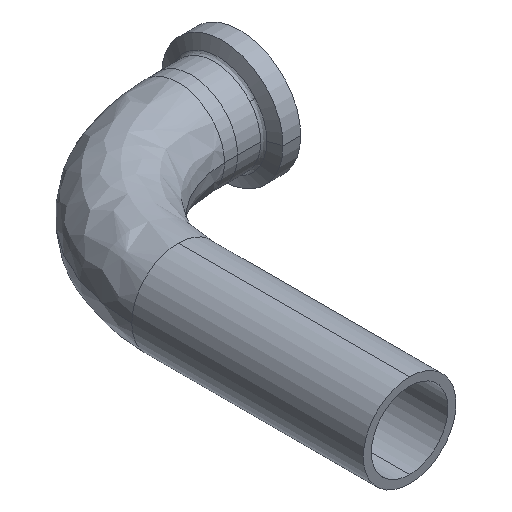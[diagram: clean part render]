
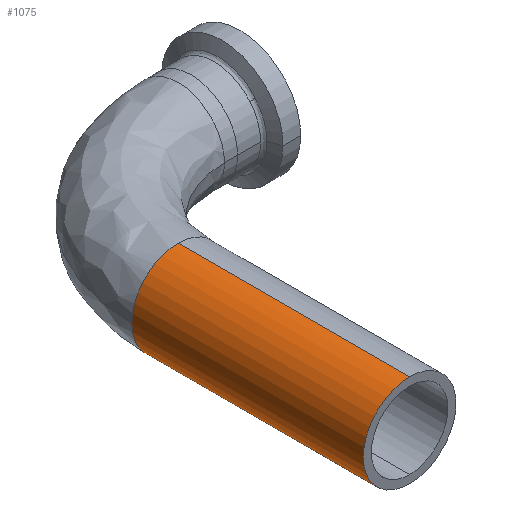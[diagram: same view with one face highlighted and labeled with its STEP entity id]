
A CAD part, isometric view. The second image highlights one B-rep face of the part: STEP entity #1075.
In plain terms, the highlighted cylindrical face has radius 9.525 mm (diameter 19.05 mm), a partial arc.
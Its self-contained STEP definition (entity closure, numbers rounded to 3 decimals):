
#17 = DIRECTION ( 'NONE',  ( 0., 0., -1. ) ) ;
#26 = DIRECTION ( 'NONE',  ( 0., -1., 0. ) ) ;
#32 = CARTESIAN_POINT ( 'NONE',  ( 0., 47.6, 0. ) ) ;
#35 = VERTEX_POINT ( 'NONE', #798 ) ;
#154 = ORIENTED_EDGE ( 'NONE', *, *, #1178, .T. ) ;
#183 = CYLINDRICAL_SURFACE ( 'NONE', #838, 9.525 ) ;
#186 = EDGE_CURVE ( 'NONE', #636, #913, #437, .T. ) ;
#206 = LINE ( 'NONE', #671, #733 ) ;
#215 = VERTEX_POINT ( 'NONE', #815 ) ;
#223 = FACE_OUTER_BOUND ( 'NONE', #1250, .T. ) ;
#228 = VERTEX_POINT ( 'NONE', #822 ) ;
#290 = DIRECTION ( 'NONE',  ( 0., 0., -1. ) ) ;
#294 = DIRECTION ( 'NONE',  ( 0., 1., 0. ) ) ;
#303 = CARTESIAN_POINT ( 'NONE',  ( 0., 0., 0. ) ) ;
#320 = DIRECTION ( 'NONE',  ( 0., -1., 0. ) ) ;
#325 = DIRECTION ( 'NONE',  ( 0., 0., -1. ) ) ;
#333 = CARTESIAN_POINT ( 'NONE',  ( 0., 47.6, 0. ) ) ;
#375 = VECTOR ( 'NONE', #453, 1000. ) ;
#437 = CIRCLE ( 'NONE', #984, 9.525 ) ;
#453 = DIRECTION ( 'NONE',  ( 0., -1., 0. ) ) ;
#458 = CARTESIAN_POINT ( 'NONE',  ( 0., 47.6, 9.525 ) ) ;
#474 = DIRECTION ( 'NONE',  ( 0., -1., 0. ) ) ;
#494 = CARTESIAN_POINT ( 'NONE',  ( 0., 47.6, 0. ) ) ;
#535 = DIRECTION ( 'NONE',  ( 0., 0., -1. ) ) ;
#618 = CIRCLE ( 'NONE', #1244, 9.525 ) ;
#623 = ORIENTED_EDGE ( 'NONE', *, *, #939, .T. ) ;
#636 = VERTEX_POINT ( 'NONE', #990 ) ;
#667 = DIRECTION ( 'NONE',  ( 0., -1., 0. ) ) ;
#671 = CARTESIAN_POINT ( 'NONE',  ( 0., 47.6, -9.525 ) ) ;
#729 = ORIENTED_EDGE ( 'NONE', *, *, #186, .T. ) ;
#733 = VECTOR ( 'NONE', #667, 1000. ) ;
#798 = CARTESIAN_POINT ( 'NONE',  ( 0., 0., 9.525 ) ) ;
#801 = EDGE_CURVE ( 'NONE', #215, #636, #618, .T. ) ;
#815 = CARTESIAN_POINT ( 'NONE',  ( 0., 47.6, 9.525 ) ) ;
#822 = CARTESIAN_POINT ( 'NONE',  ( 0., 0., -9.525 ) ) ;
#838 = AXIS2_PLACEMENT_3D ( 'NONE', #494, #474, #535 ) ;
#913 = VERTEX_POINT ( 'NONE', #1190 ) ;
#939 = EDGE_CURVE ( 'NONE', #913, #228, #206, .T. ) ;
#984 = AXIS2_PLACEMENT_3D ( 'NONE', #333, #320, #325 ) ;
#990 = CARTESIAN_POINT ( 'NONE',  ( -9.525, 47.6, 0. ) ) ;
#1075 = ADVANCED_FACE ( 'NONE', ( #223 ), #183, .T. ) ;
#1105 = AXIS2_PLACEMENT_3D ( 'NONE', #303, #294, #290 ) ;
#1125 = ORIENTED_EDGE ( 'NONE', *, *, #1322, .F. ) ;
#1131 = LINE ( 'NONE', #458, #375 ) ;
#1178 = EDGE_CURVE ( 'NONE', #228, #35, #1216, .T. ) ;
#1190 = CARTESIAN_POINT ( 'NONE',  ( 0., 47.6, -9.525 ) ) ;
#1192 = ORIENTED_EDGE ( 'NONE', *, *, #801, .T. ) ;
#1216 = CIRCLE ( 'NONE', #1105, 9.525 ) ;
#1244 = AXIS2_PLACEMENT_3D ( 'NONE', #32, #26, #17 ) ;
#1250 = EDGE_LOOP ( 'NONE', ( #1125, #1192, #729, #623, #154 ) ) ;
#1322 = EDGE_CURVE ( 'NONE', #215, #35, #1131, .T. ) ;
